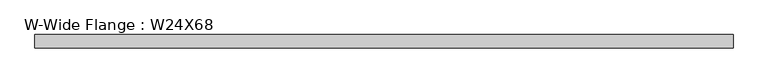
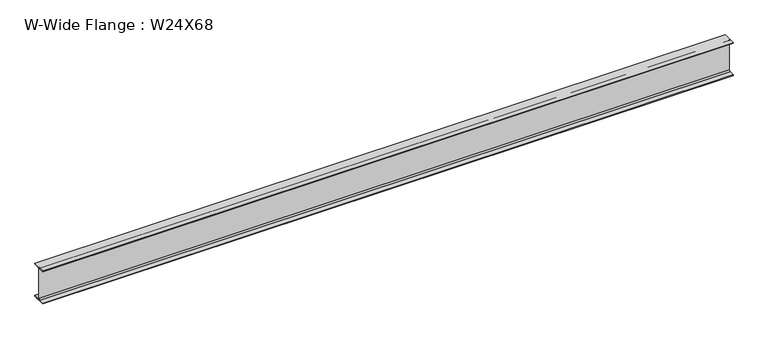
"""IFC4 building model written with IfcOpenShell, lengths in millimetres: beam geometry, W-Wide Flange : W24X68."""

from ifc_helpers import new_model, si_unit, point, frame, frame_2d, origin, place, context, project, spatial, polyline, circle_curve, trimmed, segment, composite_curve, outline, extrude, source, transform, mapped, element, save


def w_wide_flange_w24x68_d4d42626(model_context):
    return source(origin(), model_context, "Body", "SweptSolid", [
        extrude(outline(composite_curve([segment(polyline([(113.919, -286.131), (113.919, -300.99), (-113.919, -300.99), (-113.919, -286.131), (-28.5115, -286.131)]), True, "CONTINUOUS"), segment(trimmed(circle_curve(frame_2d((-28.5115, -262.89)), 23.241), [point((-28.5115, -286.131))], [point((-5.2705, -262.89))], True, "CARTESIAN"), True, "CONTINUOUS"), segment(polyline([(-5.2705, -262.89), (-5.2705, 262.89)]), True, "CONTINUOUS"), segment(trimmed(circle_curve(frame_2d((-28.5115, 262.89)), 23.241), [point((-5.2705, 262.89))], [point((-28.5115, 286.131))], True, "CARTESIAN"), True, "CONTINUOUS"), segment(polyline([(-28.5115, 286.131), (-113.919, 286.131), (-113.919, 300.99), (113.919, 300.99), (113.919, 286.131), (28.5115, 286.131)]), True, "CONTINUOUS"), segment(trimmed(circle_curve(frame_2d((28.5115, 262.89)), 23.241), [point((28.5115, 286.131))], [point((5.2705, 262.89))], True, "CARTESIAN"), True, "CONTINUOUS"), segment(polyline([(5.2705, 262.89), (5.2705, -262.89)]), True, "CONTINUOUS"), segment(trimmed(circle_curve(frame_2d((28.5115, -262.89)), 23.241), [point((5.2705, -262.89))], [point((28.5115, -286.131))], True, "CARTESIAN"), True, "CONTINUOUS"), segment(polyline([(28.5115, -286.131), (113.919, -286.131)]), True, "CONTINUOUS")], self_intersect=False)), frame((-5930.9, 0.0, 0.0), z_axis=(1.0, 0.0, 0.0), x_axis=(0.0, 1.0, 0.0)), (0.0, 0.0, 1.0), 11861.8),
    ])


if __name__ == "__main__":
    model = new_model("IFC4")
    model_context = context("Model", 3, world=origin())
    ifc_project = project(units=[si_unit("LENGTHUNIT", "METRE", prefix="MILLI")], contexts=[model_context])
    site = spatial("IfcSite", under=ifc_project)
    building = spatial("IfcBuilding", under=site)
    placement = place(None, origin())
    w_wide_flange_w24x68_shape = w_wide_flange_w24x68_d4d42626(model_context)
    element("IfcBeam", 1, ObjectType="W-Wide Flange : W24X68", at=placement, inside=building, context=model_context, shape_type="MappedRepresentation", body=[
        mapped(w_wide_flange_w24x68_shape, transform((0.0, 0.0, 0.0), x_axis=(1.0, 0.0, 0.0), y_axis=(0.0, 1.0, 0.0), z_axis=(0.0, 0.0, 1.0))),
    ])
    save(model, "model.ifc")
